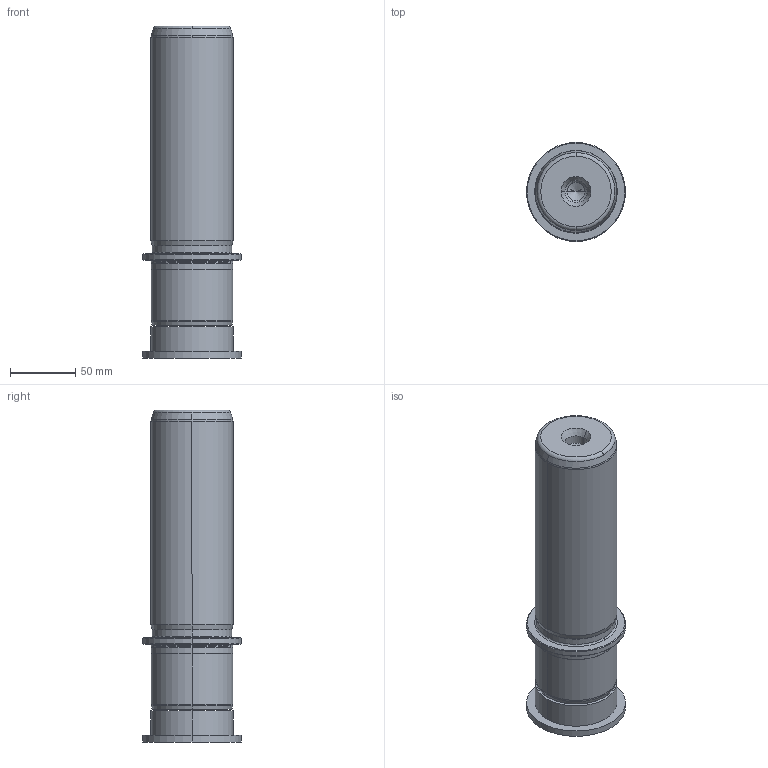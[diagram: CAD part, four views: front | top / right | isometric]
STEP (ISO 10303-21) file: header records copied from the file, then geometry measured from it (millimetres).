
FILE_DESCRIPTION((''),'2;1');
FILE_NAME('P22_063_180.stp','2009-02-06T15:50:59',(''),(''),'Mechanical Desktop 2009','Mechanical Desktop 2009',', , ');
FILE_SCHEMA(('CONFIG_CONTROL_DESIGN'));
Length unit declared in the file: millimetre
Products named in the file (2): Product; blmdl1
Assembly tree (1 placements, depth 2):
  Product
    blmdl1
Bounding box: 76 x 76 x 255 mm (x, y, z)
Volume: 788628.2 mm3; surface area: 77786.2 mm2
Topology: 3 solids, 3 shells, 99 faces, 237 edges, 149 vertices
Faces by surface type: cylinder 32, cone 28, plane 19, torus 10, bspline 10
Entity records: 3419 total; most frequent: CARTESIAN_POINT 923, DIRECTION 570, ORIENTED_EDGE 466, AXIS2_PLACEMENT_3D 246, EDGE_CURVE 233, CIRCLE 155, VERTEX_POINT 149, EDGE_LOOP 110
